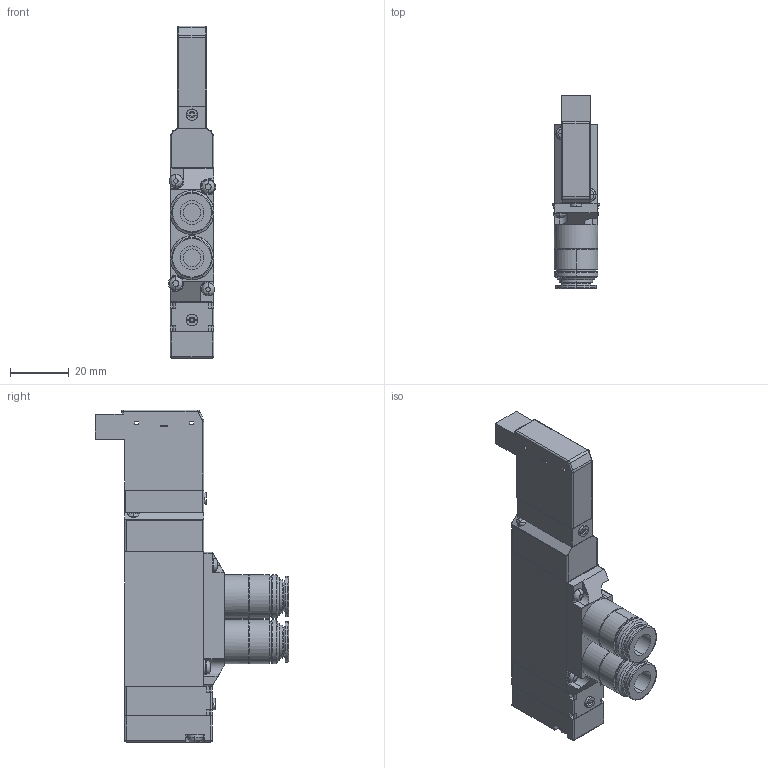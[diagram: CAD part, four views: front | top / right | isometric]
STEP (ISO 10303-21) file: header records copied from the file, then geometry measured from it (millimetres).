
FILE_DESCRIPTION( (''), '2;1');
FILE_NAME ('CVICAD02.3360.F15T2-FJ_21707.stp','2021-07-12T19:13:55',(''),(''),'spGate 12.6.6','','');
FILE_SCHEMA (('AUTOMOTIVE_DESIGN'));
Length unit declared in the file: millimetre
Products named in the file (8): Assembly; CVICAD02-prt0; CVICAD02-prt1; CVICAD02-prt2; CVICAD02-prt3; CVICAD02-prt4; CVICAD02-prt5; CVICAD02-prt6
Assembly tree (7 placements, depth 2):
  Assembly
    CVICAD02-prt0
    CVICAD02-prt1
    CVICAD02-prt2
    CVICAD02-prt3
    CVICAD02-prt4
    CVICAD02-prt5
    CVICAD02-prt6
Bounding box: 16.2 x 66 x 113.5 mm (x, y, z)
Volume: 51356.5 mm3; surface area: 20703.6 mm2
Topology: 7 solids, 7 shells, 380 faces, 928 edges, 581 vertices
Faces by surface type: plane 173, cylinder 138, bspline 64, sphere 5
Entity records: 19380 total; most frequent: CARTESIAN_POINT 3184, ORIENTED_EDGE 1838, DIRECTION 1709, COLOUR_RGB 1306, PRESENTATION_STYLE_ASSIGNMENT 1306, STYLED_ITEM 1306, EDGE_CURVE 919, DRAUGHTING_PRE_DEFINED_CURVE_FONT 919
